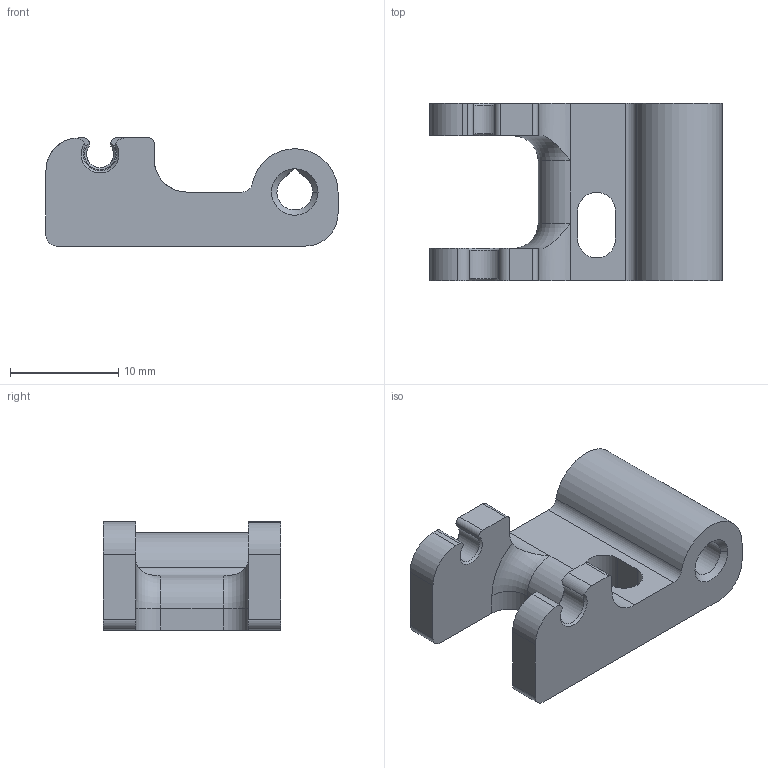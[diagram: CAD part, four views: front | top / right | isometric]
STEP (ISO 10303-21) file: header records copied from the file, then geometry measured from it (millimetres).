
FILE_DESCRIPTION((''),'2;1');
FILE_NAME('_000_9990007_1_LLL','2024-10-21T08:47:30',('Administrator'),(''),'CREO PARAMETRIC BY PTC INC, 2024063','CREO PARAMETRIC BY PTC INC, 2024063','');
FILE_SCHEMA(('CONFIG_CONTROL_DESIGN'));
Length unit declared in the file: millimetre
Products named in the file (1): _000_9990007_1_LLL
Bounding box: 27 x 16.4 x 10 mm (x, y, z)
Volume: 2084.3 mm3; surface area: 1723.7 mm2
Topology: 1 solids, 1 shells, 54 faces, 154 edges, 102 vertices
Faces by surface type: cylinder 23, plane 21, cone 8, torus 2
Entity records: 1899 total; most frequent: CARTESIAN_POINT 413, DIRECTION 308, ORIENTED_EDGE 308, EDGE_CURVE 154, AXIS2_PLACEMENT_3D 118, VERTEX_POINT 102, VECTOR 72, LINE 72
